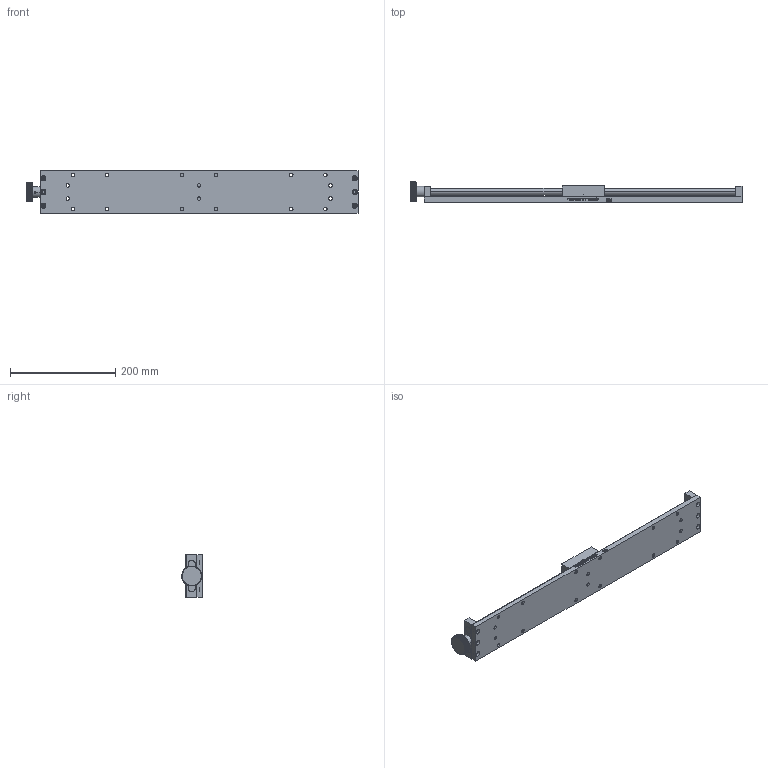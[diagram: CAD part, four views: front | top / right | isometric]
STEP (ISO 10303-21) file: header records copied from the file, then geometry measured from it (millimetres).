
FILE_DESCRIPTION (( 'STEP AP214' ), '1' );
FILE_NAME ('PT-ST500.STEP', '2022-08-21T04:06:30', ( '' ), ( '' ), 'SwSTEP 2.0', 'SolidWorks 2017', '' );
FILE_SCHEMA (( 'AUTOMOTIVE_DESIGN' ));
Length unit declared in the file: millimetre
Products named in the file (7): 賑輸; 唅聽38; 菁釱3; 菁釱5; hex socket set screws with cone point gb_GB_FASTENER_SCREWS_HSCP M4X8-N; 菁釱; PT-ST500
Assembly tree (10 placements, depth 2):
  PT-ST500
    菁釱
    菁釱3
    菁釱5
    賑輸
    hex socket set screws with cone point gb_GB_FASTENER_SCREWS_HSCP M4X8-N  x5
    唅聽38
Bounding box: 632 x 39 x 80 mm (x, y, z)
Volume: 839726.9 mm3; surface area: 214118.4 mm2
Topology: 10 solids, 11 shells, 1594 faces, 4422 edges, 2914 vertices
Faces by surface type: plane 1022, bspline 292, cylinder 234, cone 46
Entity records: 61578 total; most frequent: CARTESIAN_POINT 24357, ORIENTED_EDGE 8436, DIRECTION 6186, EDGE_CURVE 4218, VERTEX_POINT 2806, LINE 2800, VECTOR 2800, AXIS2_PLACEMENT_3D 1693
